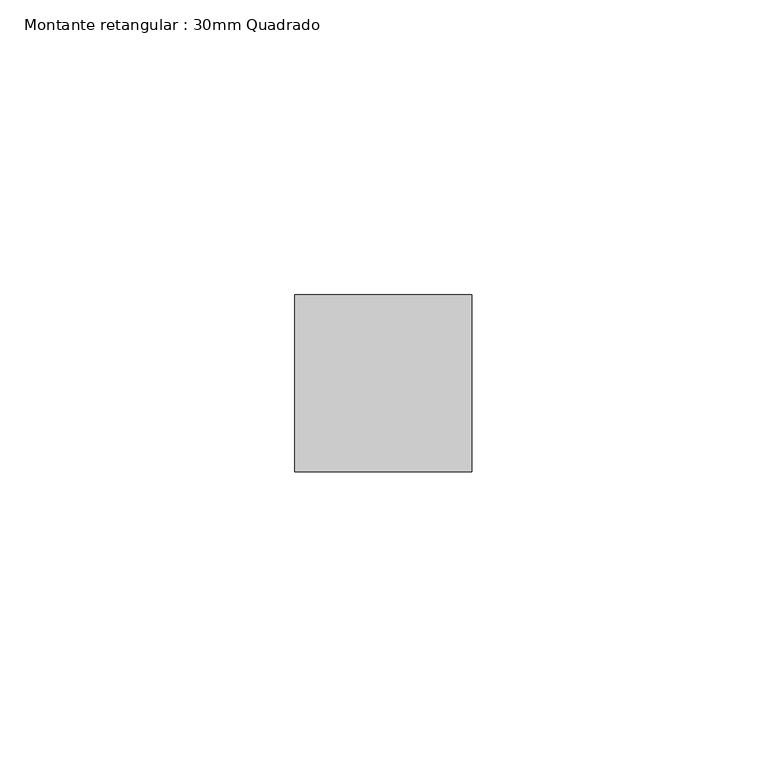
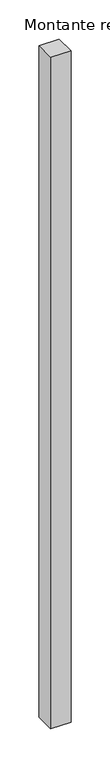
"""IFC4 building model written with IfcOpenShell, lengths in millimetres: member geometry, Montante retangular : 30mm Quadrado."""

from ifc_helpers import new_model, si_unit, frame, origin, place, context, project, spatial, polyline, outline, extrude, source, transform, mapped, element, save


def montante_retangular_30mm_quadrado_018b02ca(model_context):
    return source(origin(), model_context, "Body", "SweptSolid", [
        extrude(outline(polyline([(0.0, 15.0), (0.0, -15.0), (-30.0, -15.0), (-30.0, 15.0), (0.0, 15.0)])), frame((0.0, 0.0, -1050.0), z_axis=(0.0, 0.0, 1.0), x_axis=(1.0, 0.0, 0.0)), (0.0, 0.0, 1.0), 1050.0),
    ])


if __name__ == "__main__":
    model = new_model("IFC4")
    model_context = context("Model", 3, world=origin())
    ifc_project = project(units=[si_unit("LENGTHUNIT", "METRE", prefix="MILLI")], contexts=[model_context])
    site = spatial("IfcSite", under=ifc_project)
    building = spatial("IfcBuilding", under=site)
    placement = place(None, origin())
    montante_retangular_30mm_quadrado_shape = montante_retangular_30mm_quadrado_018b02ca(model_context)
    element("IfcMember", 1, ObjectType="Montante retangular : 30mm Quadrado", at=placement, inside=building, context=model_context, shape_type="MappedRepresentation", body=[
        mapped(montante_retangular_30mm_quadrado_shape, transform((0.0, 0.0, 0.0), x_axis=(1.0, 0.0, 0.0), y_axis=(0.0, 1.0, 0.0), z_axis=(0.0, 0.0, 1.0))),
    ])
    save(model, "model.ifc")
